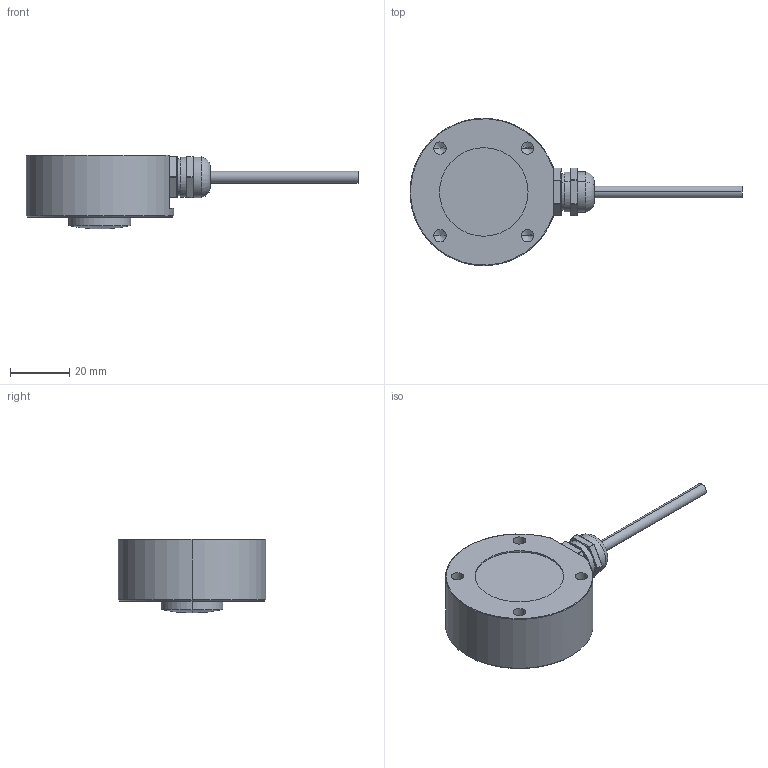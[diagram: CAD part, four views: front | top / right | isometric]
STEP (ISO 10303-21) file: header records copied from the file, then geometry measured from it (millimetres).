
FILE_DESCRIPTION (( 'STEP AP203' ), '1' );
FILE_NAME ('F1821(6000-10000kg).STEP', '2019-04-23T12:42:31', ( '' ), ( '' ), 'SwSTEP 2.0', 'SolidWorks 2018', '' );
FILE_SCHEMA (( 'CONFIG_CONTROL_DESIGN' ));
Length unit declared in the file: millimetre
Products named in the file (1): F1821(6000-10000kg)
Bounding box: 112.5 x 50 x 25 mm (x, y, z)
Volume: 43863.1 mm3; surface area: 9840.1 mm2
Topology: 2 solids, 2 shells, 134 faces, 297 edges, 165 vertices
Faces by surface type: cylinder 62, plane 31, sphere 18, cone 14, bspline 6, torus 3
Entity records: 3823 total; most frequent: CARTESIAN_POINT 858, DIRECTION 666, ORIENTED_EDGE 554, EDGE_CURVE 277, AXIS2_PLACEMENT_3D 272, VERTEX_POINT 160, EDGE_LOOP 147, CIRCLE 143
